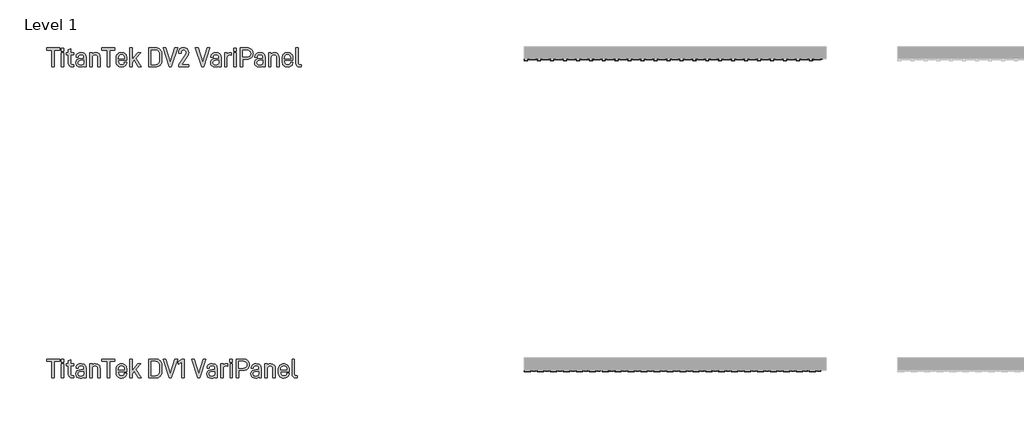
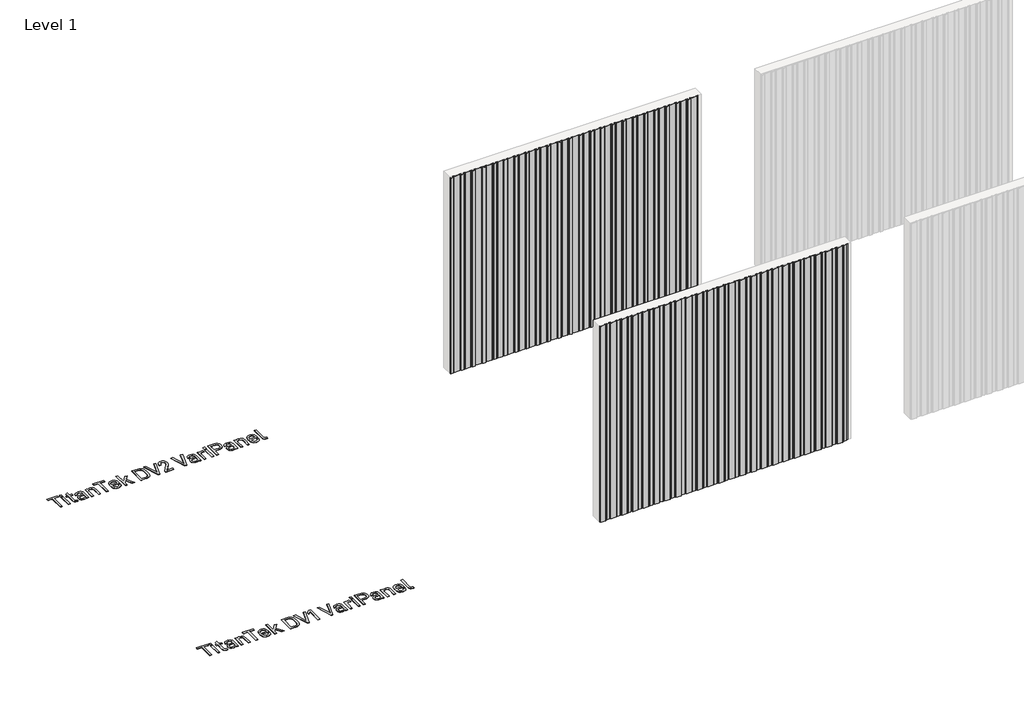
# One storey, part 31 of 33: 4 proxies.
"""IFC4 building model written with IfcOpenShell, lengths in millimetres."""

from ifc_helpers import new_model, si_unit, origin, origin_with_axes, place, context, project, spatial, polyline, outline, extrude, transform, mapped, element, save
from components import aluminum_slate_gray_4889c0f9, aluminum_slate_gray_53ae1bc5

model = new_model("IFC4")

# Units and contexts
model_context = context("Model", 3, world=origin())
ifc_project = project(units=[si_unit("LENGTHUNIT", "METRE", prefix="MILLI")], contexts=[model_context])

# Site, building, storey
site = spatial("IfcSite", under=ifc_project)
building = spatial("IfcBuilding", under=site)
storey = spatial("IfcBuildingStorey", under=building, Name="Level 1", Elevation=0.0)

# Proxies
placement = place(None, origin())
element("IfcBuildingElementProxy", 1, Name="600mm Arial 2", ObjectType="600mm Arial 2", at=placement, inside=storey, context=model_context, shape_type="SweptSolid", body=[
    extrude(outline(polyline([(-9914.9924556, 122220.4128343), (-9914.9924556, 121952.9873502), (-9954.4439015, 121952.9873502), (-9954.4439015, 122220.4128343), (-10038.8787304, 122220.4128343), (-10038.8787304, 122257.3166776), (-9830.5576267, 122257.3166776), (-9830.5576267, 122220.4128343), (-9914.9924556, 122220.4128343)])), origin_with_axes(), (0.0, 0.0, 1.0), 5.0),
    extrude(outline(polyline([(-9763.1553408, 122253.0221475), (-9763.1553408, 122205.8551051), (-9802.6067867, 122205.8551051), (-9802.6067867, 122253.0221475), (-9763.1553408, 122253.0221475)])), origin_with_axes(), (0.0, 0.0, 1.0), 5.0),
    extrude(outline(polyline([(-9764.0288046, 122178.8505176), (-9764.0288046, 121952.9873502), (-9801.733323, 121952.9873502), (-9801.733323, 122178.8505176), (-9764.0288046, 122178.8505176)])), origin_with_axes(), (0.0, 0.0, 1.0), 5.0),
    extrude(outline(polyline([(-9648.294858, 122012.601251), (-9646.8208879, 122001.5191797), (-9642.3989777, 121993.6034145), (-9635.0291273, 121988.8539554), (-9624.7113368, 121987.2708023), (-9603.2386864, 121987.2708023), (-9603.2386864, 121952.9873502), (-9629.3698101, 121952.9873502), (-9653.1535001, 121956.9543314), (-9671.3688587, 121968.855275), (-9682.6692959, 121987.3981825), (-9686.4361083, 122011.2910554), (-9686.4361083, 122147.1146681), (-9720.2828285, 122147.1146681), (-9720.2828285, 122178.8505176), (-9686.4361083, 122178.8505176), (-9686.4361083, 122226.8910237), (-9648.294858, 122244.8698192), (-9648.294858, 122178.8505176), (-9599.3808881, 122178.8505176), (-9599.3808881, 122147.1146681), (-9648.294858, 122147.1146681), (-9648.294858, 122012.601251)])), origin_with_axes(), (0.0, 0.0, 1.0), 5.0),
    extrude(outline(polyline([(-9422.8684225, 122162.1091291), (-9413.2830677, 122151.3409589), (-9406.4363858, 122138.2526505), (-9400.9590402, 122105.1156196), (-9400.9590402, 121952.9873502), (-9438.2996154, 121952.9873502), (-9438.2996154, 121969.2920069), (-9456.7151427, 121956.8451485), (-9473.7476858, 121952.0410978), (-9493.9829293, 121950.4397476), (-9526.0281305, 121954.7160806), (-9550.1029751, 121967.5450794), (-9565.2248162, 121989.3270816), (-9570.2654299, 122018.5699199), (-9565.1338304, 122046.2114081), (-9549.7390318, 122067.4111012), (-9525.063681, 122080.6222403), (-9493.1094655, 122085.0259534), (-9438.7363472, 122085.0259534), (-9438.7363472, 122105.5523515), (-9441.6296959, 122124.441005), (-9450.3097419, 122138.1616647), (-9464.2305704, 122146.1866129), (-9483.7197302, 122148.8615956), (-9502.2262434, 122146.6051476), (-9515.819523, 122139.8358036), (-9524.1720201, 122129.4816187), (-9526.9561857, 122115.4516073), (-9526.9561857, 122109.8468816), (-9563.8600291, 122109.8468816), (-9563.8600291, 122116.2522824), (-9558.4008807, 122143.2932642), (-9542.0234354, 122164.2927885), (-9516.8203668, 122177.4493362), (-9484.1564621, 122181.8348521), (-9448.6719974, 122176.9034213), (-9434.5600987, 122170.7391329), (-9422.8684225, 122162.1091291)]), holes=[polyline([(-9450.6736851, 121994.5496669), (-9441.7206817, 122009.4531421), (-9438.7363472, 122031.0167784), (-9438.7363472, 122054.9642428), (-9488.8149354, 122054.9642428), (-9507.9538, 122052.7168933), (-9521.6244175, 122045.974845), (-9529.826788, 122034.7380979), (-9532.5609115, 122019.0066518), (-9529.8540837, 122003.0522906), (-9521.7336004, 121991.6563182), (-9508.1994616, 121984.8187348), (-9489.2516673, 121982.5395404), (-9466.104878, 121985.542072), (-9450.6736851, 121994.5496669)])]), origin_with_axes(), (0.0, 0.0, 1.0), 5.0),
    extrude(outline(polyline([(-9306.6977441, 122178.8505176), (-9306.6977441, 122160.4349903), (-9288.2822167, 122173.6825238), (-9271.1222935, 122179.4692211), (-9252.2518372, 122181.3981202), (-9219.9154813, 122175.9389718), (-9206.7907787, 122169.1150363), (-9195.6950595, 122159.5615265), (-9187.0650557, 122147.9790333), (-9180.9007673, 122134.1946835), (-9175.9693365, 122100.0204144), (-9175.9693365, 121952.9873502), (-9213.673855, 121952.9873502), (-9213.673855, 122095.7258843), (-9216.6763866, 122118.1083928), (-9225.6839815, 122133.8671346), (-9240.3781893, 122143.4752358), (-9259.567096, 122146.6779363), (-9278.7378056, 122143.4752358), (-9293.3774219, 122133.8671346), (-9303.0401146, 122117.453295), (-9306.2610122, 122095.7258843), (-9306.2610122, 121952.9873502), (-9343.9655306, 121952.9873502), (-9343.9655306, 122178.8505176), (-9306.6977441, 122178.8505176)])), origin_with_axes(), (0.0, 0.0, 1.0), 5.0),
    extrude(outline(polyline([(-9025.2240514, 122220.4128343), (-9025.2240514, 121952.9873502), (-9064.6754974, 121952.9873502), (-9064.6754974, 122220.4128343), (-9149.1103263, 122220.4128343), (-9149.1103263, 122257.3166776), (-8940.7892225, 122257.3166776), (-8940.7892225, 122220.4128343), (-9025.2240514, 122220.4128343)])), origin_with_axes(), (0.0, 0.0, 1.0), 5.0),
    extrude(outline(polyline([(-8884.5235994, 122047.2486463), (-8881.1025331, 122017.8329349), (-8870.8393341, 121998.8805913), (-8854.3527058, 121988.5900965), (-8832.2613519, 121985.1599316), (-8812.990558, 121987.7257314), (-8798.8513635, 121995.4231306), (-8790.1713175, 122007.1966941), (-8787.2779689, 122022.86445), (-8787.2779689, 122028.3963871), (-8750.3741256, 122028.3963871), (-8750.3741256, 122021.9909863), (-8756.0516399, 121992.8391337), (-8763.1485329, 121980.528754), (-8773.084183, 121969.7287387), (-8799.7976159, 121955.2619954), (-8834.3722226, 121950.4397476), (-8853.3222916, 121951.9387388), (-8870.2843206, 121956.4357123), (-8885.2583098, 121963.9306682), (-8898.2442591, 121974.4236064), (-8908.7371973, 121988.0237099), (-8916.2321532, 122004.8401617), (-8920.7291267, 122024.8729617), (-8922.2281179, 122048.1221101), (-8922.2281179, 122085.8266285), (-8920.7314014, 122108.5321367), (-8916.2412518, 122128.1714231), (-8908.7576691, 122144.7444879), (-8898.2806535, 122158.2513309), (-8885.4971476, 122168.5691214), (-8870.7301511, 122175.9389718), (-8853.979664, 122180.360882), (-8835.2456864, 122181.8348521), (-8816.8438069, 122180.360882), (-8800.2161506, 122175.9389718), (-8785.3627176, 122168.5691214), (-8772.2835079, 122158.2513309), (-8761.9657174, 122144.9082623), (-8754.595867, 122128.389789), (-8750.1739568, 122108.6959111), (-8748.6999867, 122085.8266285), (-8748.6999867, 122055.8377065), (-8884.5235994, 122055.8377065), (-8884.5235994, 122047.2486463)]), holes=[polyline([(-8871.2760659, 122133.4304027), (-8881.2117161, 122115.30603), (-8884.5235994, 122086.7000923), (-8786.4045051, 122086.2633604), (-8786.4045051, 122089.6844267), (-8789.6254027, 122116.9255774), (-8799.2880954, 122134.3038665), (-8814.9012599, 122143.5844188), (-8835.2456864, 122146.6779363), (-8855.60831, 122143.3660529), (-8871.2760659, 122133.4304027)])]), origin_with_axes(), (0.0, 0.0, 1.0), 5.0),
    extrude(outline(polyline([(-8663.391694, 122020.3168474), (-8663.391694, 121952.9873502), (-8701.0962125, 121952.9873502), (-8701.0962125, 122257.3166776), (-8663.391694, 122257.3166776), (-8663.391694, 122070.8321675), (-8575.0990669, 122178.8505176), (-8528.3687564, 122178.8505176), (-8602.5403863, 122091.8680861), (-8517.6688255, 121952.9873502), (-8563.5256722, 121952.9873502), (-8627.7980463, 122062.6798392), (-8663.391694, 122020.3168474)])), origin_with_axes(), (0.0, 0.0, 1.0), 5.0),
    extrude(outline(polyline([(-8290.7138284, 122257.3166776), (-8267.5260955, 122255.5470037), (-8246.8040779, 122250.2379818), (-8228.5477758, 122241.3896121), (-8212.7571889, 122229.0018945), (-8200.1784011, 122212.6471956), (-8191.1935527, 122192.3346142), (-8185.8026436, 122168.0641502), (-8184.0056739, 122139.8358036), (-8184.0056739, 122070.3954356), (-8185.8026436, 122042.1716383), (-8191.1935527, 122017.9148221), (-8200.1784011, 121997.6249872), (-8212.7571889, 121981.3021334), (-8228.5477758, 121968.9144158), (-8246.8040779, 121960.066046), (-8267.5260955, 121954.7570242), (-8290.7138284, 121952.9873502), (-8396.1845759, 121952.9873502), (-8396.1845759, 122257.3166776), (-8290.7138284, 122257.3166776)]), holes=[polyline([(-8290.3498852, 121989.8184049), (-8261.4664407, 121994.7498357), (-8250.1193733, 122000.9141241), (-8240.835409, 122009.5441279), (-8228.4567899, 122034.2012816), (-8224.3305836, 122068.7212968), (-8224.3305836, 122138.5983966), (-8228.6069165, 122176.0663519), (-8233.9523327, 122190.1464056), (-8241.4359153, 122201.1238432), (-8262.035102, 122215.5905865), (-8290.3498852, 122220.4128343), (-8355.8596662, 122220.4128343), (-8355.8596662, 121989.8184049), (-8290.3498852, 121989.8184049)])]), origin_with_axes(), (0.0, 0.0, 1.0), 5.0),
    extrude(outline(polyline([(-7975.0294723, 122257.3166776), (-7933.4671557, 122257.3166776), (-8032.8964456, 121952.9873502), (-8064.6322951, 121952.9873502), (-8163.6248531, 122257.3166776), (-8122.0625365, 122257.3166776), (-8048.3276385, 122022.86445), (-7975.0294723, 122257.3166776)])), origin_with_axes(), (0.0, 0.0, 1.0), 5.0),
    extrude(outline(polyline([(-7919.8556789, 122170.2614574), (-7919.8556789, 122216.1183042), (-7866.2832358, 122257.3166776), (-7829.4521811, 122257.3166776), (-7829.4521811, 121952.9873502), (-7868.903627, 121952.9873502), (-7868.903627, 122208.4027077), (-7919.8556789, 122170.2614574)])), origin_with_axes(), (0.0, 0.0, 1.0), 5.0),
    extrude(outline(polyline([(-7518.499087, 122257.3166776), (-7476.9367703, 122257.3166776), (-7576.3660602, 121952.9873502), (-7608.1019097, 121952.9873502), (-7707.0944678, 122257.3166776), (-7665.5321511, 122257.3166776), (-7591.7972531, 122022.86445), (-7518.499087, 122257.3166776)])), origin_with_axes(), (0.0, 0.0, 1.0), 5.0),
    extrude(outline(polyline([(-7317.2384818, 122162.1091291), (-7307.653127, 122151.3409589), (-7300.806445, 122138.2526505), (-7295.3290995, 122105.1156196), (-7295.3290995, 121952.9873502), (-7332.6696747, 121952.9873502), (-7332.6696747, 121969.2920069), (-7351.085202, 121956.8451485), (-7368.1177451, 121952.0410978), (-7388.3529886, 121950.4397476), (-7420.3981898, 121954.7160806), (-7444.4730343, 121967.5450794), (-7459.5948755, 121989.3270816), (-7464.6354892, 122018.5699199), (-7459.5038897, 122046.2114081), (-7444.1090911, 122067.4111012), (-7419.4337403, 122080.6222403), (-7387.4795248, 122085.0259534), (-7333.1064065, 122085.0259534), (-7333.1064065, 122105.5523515), (-7335.9997552, 122124.441005), (-7344.6798012, 122138.1616647), (-7358.6006297, 122146.1866129), (-7378.0897895, 122148.8615956), (-7396.5963027, 122146.6051476), (-7410.1895823, 122139.8358036), (-7418.5420793, 122129.4816187), (-7421.326245, 122115.4516073), (-7421.326245, 122109.8468816), (-7458.2300884, 122109.8468816), (-7458.2300884, 122116.2522824), (-7452.7709399, 122143.2932642), (-7436.3934947, 122164.2927885), (-7411.1904261, 122177.4493362), (-7378.5265214, 122181.8348521), (-7343.0420567, 122176.9034213), (-7328.930158, 122170.7391329), (-7317.2384818, 122162.1091291)]), holes=[polyline([(-7345.0437444, 121994.5496669), (-7336.090741, 122009.4531421), (-7333.1064065, 122031.0167784), (-7333.1064065, 122054.9642428), (-7383.1849947, 122054.9642428), (-7402.3238592, 122052.7168933), (-7415.9944767, 122045.974845), (-7424.1968473, 122034.7380979), (-7426.9309708, 122019.0066518), (-7424.224143, 122003.0522906), (-7416.1036597, 121991.6563182), (-7402.5695209, 121984.8187348), (-7383.6217266, 121982.5395404), (-7360.4749373, 121985.542072), (-7345.0437444, 121994.5496669)])]), origin_with_axes(), (0.0, 0.0, 1.0), 5.0),
    extrude(outline(polyline([(-7148.3688239, 122181.8348521), (-7128.2063691, 122179.7239814), (-7128.2063691, 122140.7092673), (-7154.7742248, 122146.313993), (-7173.1078649, 122142.7746451), (-7187.7838755, 122132.1566015), (-7197.4192725, 122115.7518604), (-7200.6310715, 122094.8524206), (-7200.6310715, 121952.9873502), (-7238.3355899, 121952.9873502), (-7238.3355899, 122178.8505176), (-7201.0678034, 122178.8505176), (-7201.0678034, 122159.1247947), (-7183.5257398, 122173.3185806), (-7167.4212519, 122179.7057842), (-7148.3688239, 122181.8348521)])), origin_with_axes(), (0.0, 0.0, 1.0), 5.0),
    extrude(outline(polyline([(-7051.9238685, 122253.0221475), (-7051.9238685, 122205.8551051), (-7091.3753144, 122205.8551051), (-7091.3753144, 122253.0221475), (-7051.9238685, 122253.0221475)])), origin_with_axes(), (0.0, 0.0, 1.0), 5.0),
    extrude(outline(polyline([(-7052.7973322, 122178.8505176), (-7052.7973322, 121952.9873502), (-7090.5018507, 121952.9873502), (-7090.5018507, 122178.8505176), (-7052.7973322, 122178.8505176)])), origin_with_axes(), (0.0, 0.0, 1.0), 5.0),
    extrude(outline(polyline([(-6807.5723851, 122233.2964245), (-6796.1400185, 122219.8396237), (-6787.9740423, 122203.926206), (-6783.0744566, 122185.5561716), (-6781.4412613, 122164.7295204), (-6783.1017523, 122145.044741), (-6788.0832252, 122127.5527196), (-6796.3856801, 122112.2534562), (-6808.009117, 122099.1469507), (-6822.0664242, 122088.6380899), (-6838.5439538, 122081.1317609), (-6857.4417059, 122076.6279634), (-6878.7596805, 122075.1266976), (-6949.4374554, 122075.1266976), (-6949.4374554, 121952.9873502), (-6989.3256332, 121952.9873502), (-6989.3256332, 122257.3166776), (-6878.7596805, 122257.3166776), (-6857.5781847, 122255.8154118), (-6838.6531368, 122251.3116143), (-6821.9845369, 122243.8052853), (-6807.5723851, 122233.2964245)]), holes=[polyline([(-6836.3239001, 122125.2780744), (-6825.0780544, 122141.5827311), (-6821.3294391, 122164.7295204), (-6825.1872373, 122189.3502798), (-6836.760632, 122206.7285689), (-6855.8312572, 122216.9917679), (-6881.3072831, 122220.4128343), (-6949.4374554, 122220.4128343), (-6949.4374554, 122112.0305409), (-6881.3072831, 122112.0305409), (-6855.0669764, 122115.3424243), (-6836.3239001, 122125.2780744)])]), origin_with_axes(), (0.0, 0.0, 1.0), 5.0),
    extrude(outline(polyline([(-6609.1505371, 122162.1091291), (-6599.5651824, 122151.3409589), (-6592.7185004, 122138.2526505), (-6587.2411548, 122105.1156196), (-6587.2411548, 121952.9873502), (-6624.58173, 121952.9873502), (-6624.58173, 121969.2920069), (-6642.9972573, 121956.8451485), (-6660.0298004, 121952.0410978), (-6680.2650439, 121950.4397476), (-6712.3102451, 121954.7160806), (-6736.3850897, 121967.5450794), (-6751.5069308, 121989.3270816), (-6756.5475445, 122018.5699199), (-6751.415945, 122046.2114081), (-6736.0211465, 122067.4111012), (-6711.3457956, 122080.6222403), (-6679.3915802, 122085.0259534), (-6625.0184619, 122085.0259534), (-6625.0184619, 122105.5523515), (-6627.9118105, 122124.441005), (-6636.5918565, 122138.1616647), (-6650.512685, 122146.1866129), (-6670.0018449, 122148.8615956), (-6688.508358, 122146.6051476), (-6702.1016376, 122139.8358036), (-6710.4541347, 122129.4816187), (-6713.2383004, 122115.4516073), (-6713.2383004, 122109.8468816), (-6750.1421437, 122109.8468816), (-6750.1421437, 122116.2522824), (-6744.6829953, 122143.2932642), (-6728.30555, 122164.2927885), (-6703.1024815, 122177.4493362), (-6670.4385767, 122181.8348521), (-6634.954112, 122176.9034213), (-6620.8422133, 122170.7391329), (-6609.1505371, 122162.1091291)]), holes=[polyline([(-6636.9557998, 121994.5496669), (-6628.0027963, 122009.4531421), (-6625.0184619, 122031.0167784), (-6625.0184619, 122054.9642428), (-6675.0970501, 122054.9642428), (-6694.2359146, 122052.7168933), (-6707.9065321, 122045.974845), (-6716.1089026, 122034.7380979), (-6718.8430261, 122019.0066518), (-6716.1361983, 122003.0522906), (-6708.0157151, 121991.6563182), (-6694.4815763, 121984.8187348), (-6675.5337819, 121982.5395404), (-6652.3869926, 121985.542072), (-6636.9557998, 121994.5496669)])]), origin_with_axes(), (0.0, 0.0, 1.0), 5.0),
    extrude(outline(polyline([(-6492.9798587, 122178.8505176), (-6492.9798587, 122160.4349903), (-6474.5643314, 122173.6825238), (-6457.4044082, 122179.4692211), (-6438.5339518, 122181.3981202), (-6406.197596, 122175.9389718), (-6393.0728933, 122169.1150363), (-6381.9771741, 122159.5615265), (-6373.3471703, 122147.9790333), (-6367.1828819, 122134.1946835), (-6362.2514512, 122100.0204144), (-6362.2514512, 121952.9873502), (-6399.9559696, 121952.9873502), (-6399.9559696, 122095.7258843), (-6402.9585012, 122118.1083928), (-6411.9660961, 122133.8671346), (-6426.660304, 122143.4752358), (-6445.8492107, 122146.6779363), (-6465.0199202, 122143.4752358), (-6479.6595366, 122133.8671346), (-6489.3222293, 122117.453295), (-6492.5431268, 122095.7258843), (-6492.5431268, 121952.9873502), (-6530.2476453, 121952.9873502), (-6530.2476453, 122178.8505176), (-6492.9798587, 122178.8505176)])), origin_with_axes(), (0.0, 0.0, 1.0), 5.0),
    extrude(outline(polyline([(-6275.7785402, 122047.2486463), (-6272.3574738, 122017.8329349), (-6262.0942748, 121998.8805913), (-6245.6076465, 121988.5900965), (-6223.5162926, 121985.1599316), (-6204.2454987, 121987.7257314), (-6190.1063042, 121995.4231306), (-6181.4262583, 122007.1966941), (-6178.5329096, 122022.86445), (-6178.5329096, 122028.3963871), (-6141.6290663, 122028.3963871), (-6141.6290663, 122021.9909863), (-6147.3065806, 121992.8391337), (-6154.4034736, 121980.528754), (-6164.3391237, 121969.7287387), (-6191.0525566, 121955.2619954), (-6225.6271633, 121950.4397476), (-6244.5772323, 121951.9387388), (-6261.5392614, 121956.4357123), (-6276.5132505, 121963.9306682), (-6289.4991999, 121974.4236064), (-6299.9921381, 121988.0237099), (-6307.4870939, 122004.8401617), (-6311.9840674, 122024.8729617), (-6313.4830586, 122048.1221101), (-6313.4830586, 122085.8266285), (-6311.9863421, 122108.5321367), (-6307.4961925, 122128.1714231), (-6300.0126099, 122144.7444879), (-6289.5355942, 122158.2513309), (-6276.7520883, 122168.5691214), (-6261.9850918, 122175.9389718), (-6245.2346047, 122180.360882), (-6226.5006271, 122181.8348521), (-6208.0987476, 122180.360882), (-6191.4710914, 122175.9389718), (-6176.6176584, 122168.5691214), (-6163.5384486, 122158.2513309), (-6153.2206581, 122144.9082623), (-6145.8508077, 122128.389789), (-6141.4288975, 122108.6959111), (-6139.9549274, 122085.8266285), (-6139.9549274, 122055.8377065), (-6275.7785402, 122055.8377065), (-6275.7785402, 122047.2486463)]), holes=[polyline([(-6262.5310066, 122133.4304027), (-6272.4666568, 122115.30603), (-6275.7785402, 122086.7000923), (-6177.6594458, 122086.2633604), (-6177.6594458, 122089.6844267), (-6180.8803434, 122116.9255774), (-6190.5430361, 122134.3038665), (-6206.1562006, 122143.5844188), (-6226.5006271, 122146.6779363), (-6246.8632507, 122143.3660529), (-6262.5310066, 122133.4304027)])]), origin_with_axes(), (0.0, 0.0, 1.0), 5.0),
    extrude(outline(polyline([(-6077.3566922, 121968.855275), (-6088.6025379, 121988.362632), (-6092.3511532, 122014.2753899), (-6092.3511532, 122257.3166776), (-6054.6466347, 122257.3166776), (-6054.6466347, 122016.0223174), (-6053.2636505, 122002.6110094), (-6049.1146977, 121994.112935), (-6042.1269877, 121989.6364333), (-6031.4998454, 121988.1442661), (-6009.6632517, 121988.1442661), (-6009.6632517, 121952.9873502), (-6034.4841799, 121952.9873502), (-6059.3596995, 121956.9543314), (-6077.3566922, 121968.855275)])), origin_with_axes(), (0.0, 0.0, 1.0), 5.0),
])
element("IfcBuildingElementProxy", 2, Name="600mm Arial 2", ObjectType="600mm Arial 2", at=placement, inside=storey, context=model_context, shape_type="SweptSolid", body=[
    extrude(outline(polyline([(-9914.9924556, 127220.4128343), (-9914.9924556, 126952.9873502), (-9954.4439015, 126952.9873502), (-9954.4439015, 127220.4128343), (-10038.8787304, 127220.4128343), (-10038.8787304, 127257.3166776), (-9830.5576267, 127257.3166776), (-9830.5576267, 127220.4128343), (-9914.9924556, 127220.4128343)])), origin_with_axes(), (0.0, 0.0, 1.0), 5.0),
    extrude(outline(polyline([(-9763.1553408, 127253.0221475), (-9763.1553408, 127205.8551051), (-9802.6067867, 127205.8551051), (-9802.6067867, 127253.0221475), (-9763.1553408, 127253.0221475)])), origin_with_axes(), (0.0, 0.0, 1.0), 5.0),
    extrude(outline(polyline([(-9764.0288046, 127178.8505176), (-9764.0288046, 126952.9873502), (-9801.733323, 126952.9873502), (-9801.733323, 127178.8505176), (-9764.0288046, 127178.8505176)])), origin_with_axes(), (0.0, 0.0, 1.0), 5.0),
    extrude(outline(polyline([(-9648.294858, 127012.601251), (-9646.8208879, 127001.5191797), (-9642.3989777, 126993.6034145), (-9635.0291273, 126988.8539554), (-9624.7113368, 126987.2708023), (-9603.2386864, 126987.2708023), (-9603.2386864, 126952.9873502), (-9629.3698101, 126952.9873502), (-9653.1535001, 126956.9543314), (-9671.3688587, 126968.855275), (-9682.6692959, 126987.3981825), (-9686.4361083, 127011.2910554), (-9686.4361083, 127147.1146681), (-9720.2828285, 127147.1146681), (-9720.2828285, 127178.8505176), (-9686.4361083, 127178.8505176), (-9686.4361083, 127226.8910237), (-9648.294858, 127244.8698192), (-9648.294858, 127178.8505176), (-9599.3808881, 127178.8505176), (-9599.3808881, 127147.1146681), (-9648.294858, 127147.1146681), (-9648.294858, 127012.601251)])), origin_with_axes(), (0.0, 0.0, 1.0), 5.0),
    extrude(outline(polyline([(-9422.8684225, 127162.1091291), (-9413.2830677, 127151.3409589), (-9406.4363858, 127138.2526505), (-9400.9590402, 127105.1156196), (-9400.9590402, 126952.9873502), (-9438.2996154, 126952.9873502), (-9438.2996154, 126969.2920069), (-9456.7151427, 126956.8451485), (-9473.7476858, 126952.0410978), (-9493.9829293, 126950.4397476), (-9526.0281305, 126954.7160806), (-9550.1029751, 126967.5450794), (-9565.2248162, 126989.3270816), (-9570.2654299, 127018.5699199), (-9565.1338304, 127046.2114081), (-9549.7390318, 127067.4111012), (-9525.063681, 127080.6222403), (-9493.1094655, 127085.0259534), (-9438.7363472, 127085.0259534), (-9438.7363472, 127105.5523515), (-9441.6296959, 127124.441005), (-9450.3097419, 127138.1616647), (-9464.2305704, 127146.1866129), (-9483.7197302, 127148.8615956), (-9502.2262434, 127146.6051476), (-9515.819523, 127139.8358036), (-9524.1720201, 127129.4816187), (-9526.9561857, 127115.4516073), (-9526.9561857, 127109.8468816), (-9563.8600291, 127109.8468816), (-9563.8600291, 127116.2522824), (-9558.4008807, 127143.2932642), (-9542.0234354, 127164.2927885), (-9516.8203668, 127177.4493362), (-9484.1564621, 127181.8348521), (-9448.6719974, 127176.9034213), (-9434.5600987, 127170.7391329), (-9422.8684225, 127162.1091291)]), holes=[polyline([(-9450.6736851, 126994.5496669), (-9441.7206817, 127009.4531421), (-9438.7363472, 127031.0167784), (-9438.7363472, 127054.9642428), (-9488.8149354, 127054.9642428), (-9507.9538, 127052.7168933), (-9521.6244175, 127045.974845), (-9529.826788, 127034.7380979), (-9532.5609115, 127019.0066518), (-9529.8540837, 127003.0522906), (-9521.7336004, 126991.6563182), (-9508.1994616, 126984.8187348), (-9489.2516673, 126982.5395404), (-9466.104878, 126985.542072), (-9450.6736851, 126994.5496669)])]), origin_with_axes(), (0.0, 0.0, 1.0), 5.0),
    extrude(outline(polyline([(-9306.6977441, 127178.8505176), (-9306.6977441, 127160.4349903), (-9288.2822167, 127173.6825238), (-9271.1222935, 127179.4692211), (-9252.2518372, 127181.3981202), (-9219.9154813, 127175.9389718), (-9206.7907787, 127169.1150363), (-9195.6950595, 127159.5615265), (-9187.0650557, 127147.9790333), (-9180.9007673, 127134.1946835), (-9175.9693365, 127100.0204144), (-9175.9693365, 126952.9873502), (-9213.673855, 126952.9873502), (-9213.673855, 127095.7258843), (-9216.6763866, 127118.1083928), (-9225.6839815, 127133.8671346), (-9240.3781893, 127143.4752358), (-9259.567096, 127146.6779363), (-9278.7378056, 127143.4752358), (-9293.3774219, 127133.8671346), (-9303.0401146, 127117.453295), (-9306.2610122, 127095.7258843), (-9306.2610122, 126952.9873502), (-9343.9655306, 126952.9873502), (-9343.9655306, 127178.8505176), (-9306.6977441, 127178.8505176)])), origin_with_axes(), (0.0, 0.0, 1.0), 5.0),
    extrude(outline(polyline([(-9025.2240514, 127220.4128343), (-9025.2240514, 126952.9873502), (-9064.6754974, 126952.9873502), (-9064.6754974, 127220.4128343), (-9149.1103263, 127220.4128343), (-9149.1103263, 127257.3166776), (-8940.7892225, 127257.3166776), (-8940.7892225, 127220.4128343), (-9025.2240514, 127220.4128343)])), origin_with_axes(), (0.0, 0.0, 1.0), 5.0),
    extrude(outline(polyline([(-8884.5235994, 127047.2486463), (-8881.1025331, 127017.8329349), (-8870.8393341, 126998.8805913), (-8854.3527058, 126988.5900965), (-8832.2613519, 126985.1599316), (-8812.990558, 126987.7257314), (-8798.8513635, 126995.4231306), (-8790.1713175, 127007.1966941), (-8787.2779689, 127022.86445), (-8787.2779689, 127028.3963871), (-8750.3741256, 127028.3963871), (-8750.3741256, 127021.9909863), (-8756.0516399, 126992.8391337), (-8763.1485329, 126980.528754), (-8773.084183, 126969.7287387), (-8799.7976159, 126955.2619954), (-8834.3722226, 126950.4397476), (-8853.3222916, 126951.9387388), (-8870.2843206, 126956.4357123), (-8885.2583098, 126963.9306682), (-8898.2442591, 126974.4236064), (-8908.7371973, 126988.0237099), (-8916.2321532, 127004.8401617), (-8920.7291267, 127024.8729617), (-8922.2281179, 127048.1221101), (-8922.2281179, 127085.8266285), (-8920.7314014, 127108.5321367), (-8916.2412518, 127128.1714231), (-8908.7576691, 127144.7444879), (-8898.2806535, 127158.2513309), (-8885.4971476, 127168.5691214), (-8870.7301511, 127175.9389718), (-8853.979664, 127180.360882), (-8835.2456864, 127181.8348521), (-8816.8438069, 127180.360882), (-8800.2161506, 127175.9389718), (-8785.3627176, 127168.5691214), (-8772.2835079, 127158.2513309), (-8761.9657174, 127144.9082623), (-8754.595867, 127128.389789), (-8750.1739568, 127108.6959111), (-8748.6999867, 127085.8266285), (-8748.6999867, 127055.8377065), (-8884.5235994, 127055.8377065), (-8884.5235994, 127047.2486463)]), holes=[polyline([(-8871.2760659, 127133.4304027), (-8881.2117161, 127115.30603), (-8884.5235994, 127086.7000923), (-8786.4045051, 127086.2633604), (-8786.4045051, 127089.6844267), (-8789.6254027, 127116.9255774), (-8799.2880954, 127134.3038665), (-8814.9012599, 127143.5844188), (-8835.2456864, 127146.6779363), (-8855.60831, 127143.3660529), (-8871.2760659, 127133.4304027)])]), origin_with_axes(), (0.0, 0.0, 1.0), 5.0),
    extrude(outline(polyline([(-8663.391694, 127020.3168474), (-8663.391694, 126952.9873502), (-8701.0962125, 126952.9873502), (-8701.0962125, 127257.3166776), (-8663.391694, 127257.3166776), (-8663.391694, 127070.8321675), (-8575.0990669, 127178.8505176), (-8528.3687564, 127178.8505176), (-8602.5403863, 127091.8680861), (-8517.6688255, 126952.9873502), (-8563.5256722, 126952.9873502), (-8627.7980463, 127062.6798392), (-8663.391694, 127020.3168474)])), origin_with_axes(), (0.0, 0.0, 1.0), 5.0),
    extrude(outline(polyline([(-8290.7138284, 127257.3166776), (-8267.5260955, 127255.5470037), (-8246.8040779, 127250.2379818), (-8228.5477758, 127241.3896121), (-8212.7571889, 127229.0018945), (-8200.1784011, 127212.6471956), (-8191.1935527, 127192.3346142), (-8185.8026436, 127168.0641502), (-8184.0056739, 127139.8358036), (-8184.0056739, 127070.3954356), (-8185.8026436, 127042.1716383), (-8191.1935527, 127017.9148221), (-8200.1784011, 126997.6249872), (-8212.7571889, 126981.3021334), (-8228.5477758, 126968.9144158), (-8246.8040779, 126960.066046), (-8267.5260955, 126954.7570242), (-8290.7138284, 126952.9873502), (-8396.1845759, 126952.9873502), (-8396.1845759, 127257.3166776), (-8290.7138284, 127257.3166776)]), holes=[polyline([(-8290.3498852, 126989.8184049), (-8261.4664407, 126994.7498357), (-8250.1193733, 127000.9141241), (-8240.835409, 127009.5441279), (-8228.4567899, 127034.2012816), (-8224.3305836, 127068.7212968), (-8224.3305836, 127138.5983966), (-8228.6069165, 127176.0663519), (-8233.9523327, 127190.1464056), (-8241.4359153, 127201.1238432), (-8262.035102, 127215.5905865), (-8290.3498852, 127220.4128343), (-8355.8596662, 127220.4128343), (-8355.8596662, 126989.8184049), (-8290.3498852, 126989.8184049)])]), origin_with_axes(), (0.0, 0.0, 1.0), 5.0),
    extrude(outline(polyline([(-7975.0294723, 127257.3166776), (-7933.4671557, 127257.3166776), (-8032.8964456, 126952.9873502), (-8064.6322951, 126952.9873502), (-8163.6248531, 127257.3166776), (-8122.0625365, 127257.3166776), (-8048.3276385, 127022.86445), (-7975.0294723, 127257.3166776)])), origin_with_axes(), (0.0, 0.0, 1.0), 5.0),
    extrude(outline(polyline([(-7815.7679157, 127127.4617338), (-7802.2292276, 127153.2471115), (-7797.7163316, 127176.7396469), (-7797.7163316, 127183.1450477), (-7800.4095115, 127200.9418716), (-7808.4890511, 127214.0074335), (-7821.3362471, 127222.3599305), (-7837.6045094, 127225.1440962), (-7853.9819546, 127222.4691135), (-7866.2832358, 127214.4441653), (-7874.0352265, 127200.6143227), (-7876.6192234, 127181.3981202), (-7876.6192234, 127169.4607823), (-7915.9978807, 127169.4607823), (-7915.9978807, 127183.1450477), (-7910.6479153, 127214.7535171), (-7894.5980189, 127240.1385572), (-7868.9946128, 127256.1884536), (-7836.7310456, 127261.5384191), (-7814.5487059, 127258.9726193), (-7795.168729, 127251.27522), (-7779.2098184, 127239.3924736), (-7767.2906777, 127223.3971687), (-7759.9208273, 127204.9998386), (-7757.4642105, 127184.0185115), (-7757.4642105, 127176.7396469), (-7759.1747437, 127158.0875565), (-7764.3063432, 127140.7092673), (-7784.0320662, 127105.9890833), (-7865.0458288, 126989.4544617), (-7757.4642105, 126989.4544617), (-7757.4642105, 126952.9873502), (-7915.9978807, 126952.9873502), (-7915.9978807, 126983.849736), (-7815.7679157, 127127.4617338)])), origin_with_axes(), (0.0, 0.0, 1.0), 5.0),
    extrude(outline(polyline([(-7457.9389338, 127257.3166776), (-7416.3766171, 127257.3166776), (-7515.8059071, 126952.9873502), (-7547.5417566, 126952.9873502), (-7646.5343146, 127257.3166776), (-7604.971998, 127257.3166776), (-7531.2370999, 127022.86445), (-7457.9389338, 127257.3166776)])), origin_with_axes(), (0.0, 0.0, 1.0), 5.0),
    extrude(outline(polyline([(-7256.6783286, 127162.1091291), (-7247.0929739, 127151.3409589), (-7240.2462919, 127138.2526505), (-7234.7689463, 127105.1156196), (-7234.7689463, 126952.9873502), (-7272.1095215, 126952.9873502), (-7272.1095215, 126969.2920069), (-7290.5250488, 126956.8451485), (-7307.5575919, 126952.0410978), (-7327.7928354, 126950.4397476), (-7359.8380366, 126954.7160806), (-7383.9128812, 126967.5450794), (-7399.0347223, 126989.3270816), (-7404.075336, 127018.5699199), (-7398.9437365, 127046.2114081), (-7383.548938, 127067.4111012), (-7358.8735871, 127080.6222403), (-7326.9193717, 127085.0259534), (-7272.5462534, 127085.0259534), (-7272.5462534, 127105.5523515), (-7275.439602, 127124.441005), (-7284.119648, 127138.1616647), (-7298.0404765, 127146.1866129), (-7317.5296364, 127148.8615956), (-7336.0361495, 127146.6051476), (-7349.6294291, 127139.8358036), (-7357.9819262, 127129.4816187), (-7360.7660919, 127115.4516073), (-7360.7660919, 127109.8468816), (-7397.6699352, 127109.8468816), (-7397.6699352, 127116.2522824), (-7392.2107868, 127143.2932642), (-7375.8333415, 127164.2927885), (-7350.630273, 127177.4493362), (-7317.9663682, 127181.8348521), (-7282.4819035, 127176.9034213), (-7268.3700048, 127170.7391329), (-7256.6783286, 127162.1091291)]), holes=[polyline([(-7284.4835913, 126994.5496669), (-7275.5305878, 127009.4531421), (-7272.5462534, 127031.0167784), (-7272.5462534, 127054.9642428), (-7322.6248416, 127054.9642428), (-7341.7637061, 127052.7168933), (-7355.4343236, 127045.974845), (-7363.6366941, 127034.7380979), (-7366.3708176, 127019.0066518), (-7363.6639898, 127003.0522906), (-7355.5435066, 126991.6563182), (-7342.0093678, 126984.8187348), (-7323.0615734, 126982.5395404), (-7299.9147841, 126985.542072), (-7284.4835913, 126994.5496669)])]), origin_with_axes(), (0.0, 0.0, 1.0), 5.0),
    extrude(outline(polyline([(-7087.8086708, 127181.8348521), (-7067.6462159, 127179.7239814), (-7067.6462159, 127140.7092673), (-7094.2140716, 127146.313993), (-7112.5477117, 127142.7746451), (-7127.2237224, 127132.1566015), (-7136.8591193, 127115.7518604), (-7140.0709183, 127094.8524206), (-7140.0709183, 126952.9873502), (-7177.7754368, 126952.9873502), (-7177.7754368, 127178.8505176), (-7140.5076502, 127178.8505176), (-7140.5076502, 127159.1247947), (-7122.9655866, 127173.3185806), (-7106.8610988, 127179.7057842), (-7087.8086708, 127181.8348521)])), origin_with_axes(), (0.0, 0.0, 1.0), 5.0),
    extrude(outline(polyline([(-6991.3637153, 127253.0221475), (-6991.3637153, 127205.8551051), (-7030.8151612, 127205.8551051), (-7030.8151612, 127253.0221475), (-6991.3637153, 127253.0221475)])), origin_with_axes(), (0.0, 0.0, 1.0), 5.0),
    extrude(outline(polyline([(-6992.2371791, 127178.8505176), (-6992.2371791, 126952.9873502), (-7029.9416975, 126952.9873502), (-7029.9416975, 127178.8505176), (-6992.2371791, 127178.8505176)])), origin_with_axes(), (0.0, 0.0, 1.0), 5.0),
    extrude(outline(polyline([(-6747.0122319, 127233.2964245), (-6735.5798653, 127219.8396237), (-6727.4138891, 127203.926206), (-6722.5143034, 127185.5561716), (-6720.8811082, 127164.7295204), (-6722.5415991, 127145.044741), (-6727.5230721, 127127.5527196), (-6735.825527, 127112.2534562), (-6747.4489638, 127099.1469507), (-6761.506271, 127088.6380899), (-6777.9838007, 127081.1317609), (-6796.8815528, 127076.6279634), (-6818.1995274, 127075.1266976), (-6888.8773023, 127075.1266976), (-6888.8773023, 126952.9873502), (-6928.7654801, 126952.9873502), (-6928.7654801, 127257.3166776), (-6818.1995274, 127257.3166776), (-6797.0180315, 127255.8154118), (-6778.0929836, 127251.3116143), (-6761.4243838, 127243.8052853), (-6747.0122319, 127233.2964245)]), holes=[polyline([(-6775.763747, 127125.2780744), (-6764.5179012, 127141.5827311), (-6760.769286, 127164.7295204), (-6764.6270842, 127189.3502798), (-6776.2004788, 127206.7285689), (-6795.271104, 127216.9917679), (-6820.74713, 127220.4128343), (-6888.8773023, 127220.4128343), (-6888.8773023, 127112.0305409), (-6820.74713, 127112.0305409), (-6794.5068232, 127115.3424243), (-6775.763747, 127125.2780744)])]), origin_with_axes(), (0.0, 0.0, 1.0), 5.0),
    extrude(outline(polyline([(-6548.590384, 127162.1091291), (-6539.0050292, 127151.3409589), (-6532.1583472, 127138.2526505), (-6526.6810016, 127105.1156196), (-6526.6810016, 126952.9873502), (-6564.0215768, 126952.9873502), (-6564.0215768, 126969.2920069), (-6582.4371042, 126956.8451485), (-6599.4696473, 126952.0410978), (-6619.7048907, 126950.4397476), (-6651.750092, 126954.7160806), (-6675.8249365, 126967.5450794), (-6690.9467777, 126989.3270816), (-6695.9873914, 127018.5699199), (-6690.8557918, 127046.2114081), (-6675.4609933, 127067.4111012), (-6650.7856424, 127080.6222403), (-6618.831427, 127085.0259534), (-6564.4583087, 127085.0259534), (-6564.4583087, 127105.5523515), (-6567.3516574, 127124.441005), (-6576.0317034, 127138.1616647), (-6589.9525318, 127146.1866129), (-6609.4416917, 127148.8615956), (-6627.9482049, 127146.6051476), (-6641.5414844, 127139.8358036), (-6649.8939815, 127129.4816187), (-6652.6781472, 127115.4516073), (-6652.6781472, 127109.8468816), (-6689.5819905, 127109.8468816), (-6689.5819905, 127116.2522824), (-6684.1228421, 127143.2932642), (-6667.7453969, 127164.2927885), (-6642.5423283, 127177.4493362), (-6609.8784236, 127181.8348521), (-6574.3939588, 127176.9034213), (-6560.2820602, 127170.7391329), (-6548.590384, 127162.1091291)]), holes=[polyline([(-6576.3956466, 126994.5496669), (-6567.4426432, 127009.4531421), (-6564.4583087, 127031.0167784), (-6564.4583087, 127054.9642428), (-6614.5368969, 127054.9642428), (-6633.6757614, 127052.7168933), (-6647.3463789, 127045.974845), (-6655.5487494, 127034.7380979), (-6658.2828729, 127019.0066518), (-6655.5760452, 127003.0522906), (-6647.4555619, 126991.6563182), (-6633.9214231, 126984.8187348), (-6614.9736288, 126982.5395404), (-6591.8268395, 126985.542072), (-6576.3956466, 126994.5496669)])]), origin_with_axes(), (0.0, 0.0, 1.0), 5.0),
    extrude(outline(polyline([(-6432.4197055, 127178.8505176), (-6432.4197055, 127160.4349903), (-6414.0041782, 127173.6825238), (-6396.844255, 127179.4692211), (-6377.9737986, 127181.3981202), (-6345.6374428, 127175.9389718), (-6332.5127401, 127169.1150363), (-6321.417021, 127159.5615265), (-6312.7870172, 127147.9790333), (-6306.6227287, 127134.1946835), (-6301.691298, 127100.0204144), (-6301.691298, 126952.9873502), (-6339.3958164, 126952.9873502), (-6339.3958164, 127095.7258843), (-6342.3983481, 127118.1083928), (-6351.405943, 127133.8671346), (-6366.1001508, 127143.4752358), (-6385.2890575, 127146.6779363), (-6404.459767, 127143.4752358), (-6419.0993834, 127133.8671346), (-6428.7620761, 127117.453295), (-6431.9829737, 127095.7258843), (-6431.9829737, 126952.9873502), (-6469.6874921, 126952.9873502), (-6469.6874921, 127178.8505176), (-6432.4197055, 127178.8505176)])), origin_with_axes(), (0.0, 0.0, 1.0), 5.0),
    extrude(outline(polyline([(-6215.218387, 127047.2486463), (-6211.7973206, 127017.8329349), (-6201.5341216, 126998.8805913), (-6185.0474934, 126988.5900965), (-6162.9561394, 126985.1599316), (-6143.6853455, 126987.7257314), (-6129.5461511, 126995.4231306), (-6120.8661051, 127007.1966941), (-6117.9727564, 127022.86445), (-6117.9727564, 127028.3963871), (-6081.0689131, 127028.3963871), (-6081.0689131, 127021.9909863), (-6086.7464275, 126992.8391337), (-6093.8433204, 126980.528754), (-6103.7789705, 126969.7287387), (-6130.4924035, 126955.2619954), (-6165.0670102, 126950.4397476), (-6184.0170791, 126951.9387388), (-6200.9791082, 126956.4357123), (-6215.9530974, 126963.9306682), (-6228.9390467, 126974.4236064), (-6239.4319849, 126988.0237099), (-6246.9269407, 127004.8401617), (-6251.4239143, 127024.8729617), (-6252.9229054, 127048.1221101), (-6252.9229054, 127085.8266285), (-6251.4261889, 127108.5321367), (-6246.9360393, 127128.1714231), (-6239.4524567, 127144.7444879), (-6228.975441, 127158.2513309), (-6216.1919351, 127168.5691214), (-6201.4249386, 127175.9389718), (-6184.6744516, 127180.360882), (-6165.9404739, 127181.8348521), (-6147.5385944, 127180.360882), (-6130.9109382, 127175.9389718), (-6116.0575052, 127168.5691214), (-6102.9782954, 127158.2513309), (-6092.6605049, 127144.9082623), (-6085.2906545, 127128.389789), (-6080.8687443, 127108.6959111), (-6079.3947743, 127085.8266285), (-6079.3947743, 127055.8377065), (-6215.218387, 127055.8377065), (-6215.218387, 127047.2486463)]), holes=[polyline([(-6201.9708535, 127133.4304027), (-6211.9065036, 127115.30603), (-6215.218387, 127086.7000923), (-6117.0992927, 127086.2633604), (-6117.0992927, 127089.6844267), (-6120.3201903, 127116.9255774), (-6129.982883, 127134.3038665), (-6145.5960474, 127143.5844188), (-6165.9404739, 127146.6779363), (-6186.3030975, 127143.3660529), (-6201.9708535, 127133.4304027)])]), origin_with_axes(), (0.0, 0.0, 1.0), 5.0),
    extrude(outline(polyline([(-6016.796539, 126968.855275), (-6028.0423848, 126988.362632), (-6031.791, 127014.2753899), (-6031.791, 127257.3166776), (-5994.0864816, 127257.3166776), (-5994.0864816, 127016.0223174), (-5992.7034973, 127002.6110094), (-5988.5545445, 126994.112935), (-5981.5668345, 126989.6364333), (-5970.9396923, 126988.1442661), (-5949.1030986, 126988.1442661), (-5949.1030986, 126952.9873502), (-5973.9240267, 126952.9873502), (-5998.7995464, 126956.9543314), (-6016.796539, 126968.855275)])), origin_with_axes(), (0.0, 0.0, 1.0), 5.0),
])
aluminum_slate_gray_shape = aluminum_slate_gray_4889c0f9(model_context)
element("IfcBuildingElementProxy", 3, Name="TITANTEK DV 1 VariPanel : Aluminum Slate Gray", ObjectType="TITANTEK DV 1 VariPanel : Aluminum Slate Gray", at=placement, inside=storey, context=model_context, shape_type="MappedRepresentation", body=[
    mapped(aluminum_slate_gray_shape, transform((-2360.5897817, 122078.6095025, 0.0), x_axis=(1.0, 0.0, 0.0), y_axis=(0.0, 1.0, 0.0), z_axis=(0.0, 0.0, 1.0))),
])
aluminum_slate_gray_2_shape = aluminum_slate_gray_53ae1bc5(model_context)
element("IfcBuildingElementProxy", 4, Name="TITANTEK DV 2 VariPanel : Aluminum Slate Gray", ObjectType="TITANTEK DV 2 VariPanel : Aluminum Slate Gray", at=placement, inside=storey, context=model_context, shape_type="MappedRepresentation", body=[
    mapped(aluminum_slate_gray_2_shape, transform((-2360.5897817, 127078.6095025, 0.0), x_axis=(1.0, 0.0, 0.0), y_axis=(0.0, 1.0, 0.0), z_axis=(0.0, 0.0, 1.0))),
])

save(model, "model.ifc")
